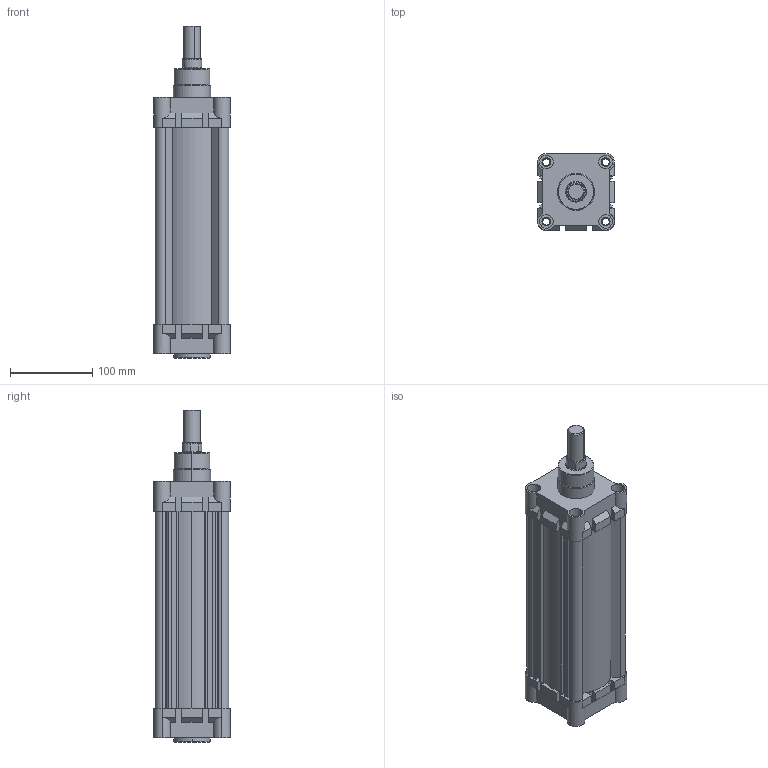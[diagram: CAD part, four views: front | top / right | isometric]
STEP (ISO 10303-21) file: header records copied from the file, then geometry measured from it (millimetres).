
FILE_DESCRIPTION (( 'STEP AP214' ), '1' );
FILE_NAME ('RIC_80_200_WEB.STEP', '2020-09-23T07:59:27', ( '' ), ( '' ), 'SwSTEP 2.0', 'SolidWorks 2018', '' );
FILE_SCHEMA (( 'AUTOMOTIVE_DESIGN' ));
Length unit declared in the file: millimetre
Products named in the file (5): RIC_80_ARKA_KAPAK_WEB; RIC_80_200_WEB; RIC_80_MIL_WEB; RIC_80_BORU_WEB; RIC_80_ONKAPAK_WEB
Assembly tree (4 placements, depth 2):
  RIC_80_200_WEB
    RIC_80_ARKA_KAPAK_WEB
    RIC_80_BORU_WEB
    RIC_80_ONKAPAK_WEB
    RIC_80_MIL_WEB
Bounding box: 93 x 93 x 402.6 mm (x, y, z)
Volume: 1032273.7 mm3; surface area: 298416.6 mm2
Topology: 4 solids, 4 shells, 468 faces, 1241 edges, 819 vertices
Faces by surface type: plane 246, cylinder 161, bspline 44, cone 11, torus 6
Entity records: 19109 total; most frequent: CARTESIAN_POINT 5717, ORIENTED_EDGE 2482, DIRECTION 2302, EDGE_CURVE 1241, VERTEX_POINT 819, LINE 790, VECTOR 790, AXIS2_PLACEMENT_3D 756
